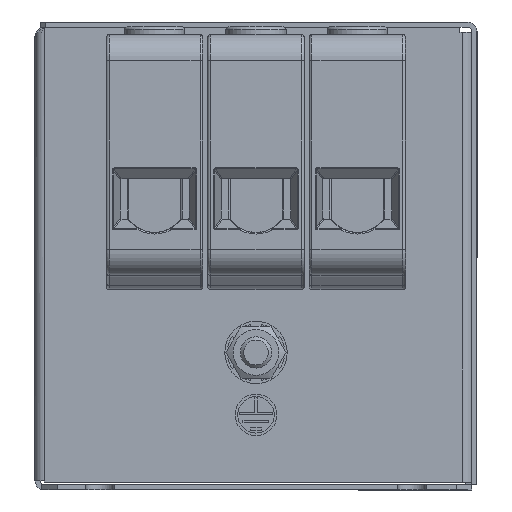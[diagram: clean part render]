
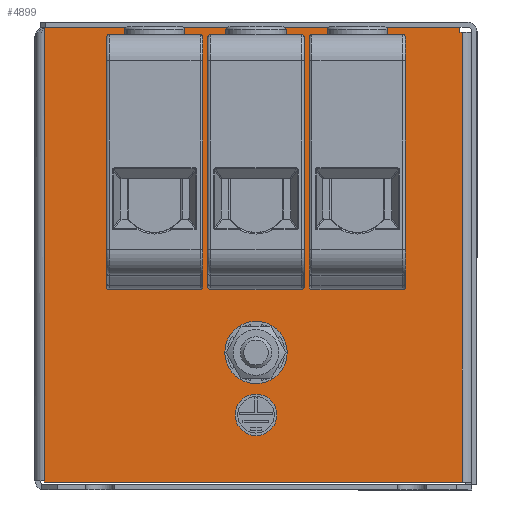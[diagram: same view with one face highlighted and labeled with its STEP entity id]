
A CAD part, left-side view. The second image highlights one B-rep face of the part: STEP entity #4899.
In plain terms, the highlighted planar face has unit normal (-1, 0, 0).
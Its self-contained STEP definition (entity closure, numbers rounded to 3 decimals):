
#4712=CARTESIAN_POINT('',(-110.0,42.5,1.5));
#4713=DIRECTION('',(1.0,0.0,0.0));
#4714=DIRECTION('',(0.0,0.0,-1.0));
#4715=AXIS2_PLACEMENT_3D('',#4712,#4713,#4714);
#4716=PLANE('',#4715);
#4717=CARTESIAN_POINT('',(-110.,-39.2,89.0));
#4718=VERTEX_POINT('',#4717);
#4719=CARTESIAN_POINT('',(-110.,-39.2,88.0));
#4720=VERTEX_POINT('',#4719);
#4721=CARTESIAN_POINT('',(-110.0,-39.2,89.0));
#4722=DIRECTION('',(0.0,0.0,-1.0));
#4723=VECTOR('',#4722,1.0);
#4724=LINE('',#4721,#4723);
#4725=EDGE_CURVE('',#4718,#4720,#4724,.T.);
#4726=ORIENTED_EDGE('',*,*,#4725,.F.);
#4727=CARTESIAN_POINT('',(-110.0,40.7,89.0));
#4728=VERTEX_POINT('',#4727);
#4729=CARTESIAN_POINT('',(-110.0,40.7,89.0));
#4730=DIRECTION('',(0.0,-1.0,0.0));
#4731=VECTOR('',#4730,79.9);
#4732=LINE('',#4729,#4731);
#4733=EDGE_CURVE('',#4728,#4718,#4732,.T.);
#4734=ORIENTED_EDGE('',*,*,#4733,.F.);
#4735=CARTESIAN_POINT('',(-110.0,40.7,1.8));
#4736=VERTEX_POINT('',#4735);
#4737=CARTESIAN_POINT('',(-110.,40.7,89.0));
#4738=DIRECTION('',(0.0,0.0,-1.0));
#4739=VECTOR('',#4738,87.2);
#4740=LINE('',#4737,#4739);
#4741=EDGE_CURVE('',#4728,#4736,#4740,.T.);
#4742=ORIENTED_EDGE('',*,*,#4741,.T.);
#4743=CARTESIAN_POINT('',(-110.,40.7,1.5));
#4744=VERTEX_POINT('',#4743);
#4745=CARTESIAN_POINT('',(-110.0,40.7,1.5));
#4746=DIRECTION('',(0.0,0.0,1.0));
#4747=VECTOR('',#4746,0.3);
#4748=LINE('',#4745,#4747);
#4749=EDGE_CURVE('',#4744,#4736,#4748,.T.);
#4750=ORIENTED_EDGE('',*,*,#4749,.F.);
#4751=CARTESIAN_POINT('',(-110.0,-39.7,1.5));
#4752=VERTEX_POINT('',#4751);
#4753=CARTESIAN_POINT('',(-110.0,-39.7,1.5));
#4754=DIRECTION('',(0.0,1.0,0.0));
#4755=VECTOR('',#4754,80.4);
#4756=LINE('',#4753,#4755);
#4757=EDGE_CURVE('',#4752,#4744,#4756,.T.);
#4758=ORIENTED_EDGE('',*,*,#4757,.F.);
#4759=CARTESIAN_POINT('',(-110.0,-39.7,88.0));
#4760=VERTEX_POINT('',#4759);
#4761=CARTESIAN_POINT('',(-110.0,-39.7,88.));
#4762=DIRECTION('',(0.0,0.0,-1.0));
#4763=VECTOR('',#4762,86.5);
#4764=LINE('',#4761,#4763);
#4765=EDGE_CURVE('',#4760,#4752,#4764,.T.);
#4766=ORIENTED_EDGE('',*,*,#4765,.F.);
#4767=CARTESIAN_POINT('',(-110.0,-39.2,88.0));
#4768=DIRECTION('',(0.0,-1.0,0.0));
#4769=VECTOR('',#4768,0.5);
#4770=LINE('',#4767,#4769);
#4771=EDGE_CURVE('',#4720,#4760,#4770,.T.);
#4772=ORIENTED_EDGE('',*,*,#4771,.F.);
#4773=EDGE_LOOP('',(#4726,#4734,#4742,#4750,#4758,#4766,#4772));
#4774=FACE_OUTER_BOUND('',#4773,.T.);
#4775=CARTESIAN_POINT('',(-110.0,-4.,14.45));
#4776=VERTEX_POINT('',#4775);
#4777=CARTESIAN_POINT('',(-110.0,0.0,14.45));
#4778=DIRECTION('',(-1.0,0.0,0.0));
#4779=DIRECTION('',(0.0,1.0,0.0));
#4780=AXIS2_PLACEMENT_3D('',#4777,#4778,#4779);
#4781=CIRCLE('',#4780,4.);
#4782=EDGE_CURVE('',#4776,#4776,#4781,.T.);
#4783=ORIENTED_EDGE('',*,*,#4782,.F.);
#4784=EDGE_LOOP('',(#4783));
#4785=FACE_BOUND('',#4784,.T.);
#4786=CARTESIAN_POINT('',(-110.,28.25,87.05));
#4787=VERTEX_POINT('',#4786);
#4788=CARTESIAN_POINT('',(-110.,28.25,39.05));
#4789=VERTEX_POINT('',#4788);
#4790=CARTESIAN_POINT('',(-110.,28.25,87.05));
#4791=DIRECTION('',(0.0,0.0,-1.0));
#4792=VECTOR('',#4791,48.);
#4793=LINE('',#4790,#4792);
#4794=EDGE_CURVE('',#4787,#4789,#4793,.T.);
#4795=ORIENTED_EDGE('',*,*,#4794,.F.);
#4796=CARTESIAN_POINT('',(-110.,10.75,87.05));
#4797=VERTEX_POINT('',#4796);
#4798=CARTESIAN_POINT('',(-110.,28.25,87.05));
#4799=DIRECTION('',(0.,-1.0,0.0));
#4800=VECTOR('',#4799,17.5);
#4801=LINE('',#4798,#4800);
#4802=EDGE_CURVE('',#4787,#4797,#4801,.T.);
#4803=ORIENTED_EDGE('',*,*,#4802,.T.);
#4804=CARTESIAN_POINT('',(-110.,10.75,39.05));
#4805=VERTEX_POINT('',#4804);
#4806=CARTESIAN_POINT('',(-110.,10.75,39.05));
#4807=DIRECTION('',(0.0,0.0,1.0));
#4808=VECTOR('',#4807,48.);
#4809=LINE('',#4806,#4808);
#4810=EDGE_CURVE('',#4805,#4797,#4809,.T.);
#4811=ORIENTED_EDGE('',*,*,#4810,.F.);
#4812=CARTESIAN_POINT('',(-110.,28.25,39.05));
#4813=DIRECTION('',(0.,-1.0,0.0));
#4814=VECTOR('',#4813,17.5);
#4815=LINE('',#4812,#4814);
#4816=EDGE_CURVE('',#4789,#4805,#4815,.T.);
#4817=ORIENTED_EDGE('',*,*,#4816,.F.);
#4818=EDGE_LOOP('',(#4795,#4803,#4811,#4817));
#4819=FACE_BOUND('',#4818,.T.);
#4820=CARTESIAN_POINT('',(-110.0,0.,20.925));
#4821=VERTEX_POINT('',#4820);
#4822=CARTESIAN_POINT('',(-110.0,0.,26.45));
#4823=DIRECTION('',(1.0,0.,0.0));
#4824=DIRECTION('',(0.,0.,-1.0));
#4825=AXIS2_PLACEMENT_3D('',#4822,#4823,#4824);
#4826=CIRCLE('',#4825,5.525);
#4827=EDGE_CURVE('',#4821,#4821,#4826,.T.);
#4828=ORIENTED_EDGE('',*,*,#4827,.T.);
#4829=EDGE_LOOP('',(#4828));
#4830=FACE_BOUND('',#4829,.T.);
#4831=CARTESIAN_POINT('',(-110.,8.75,87.05));
#4832=VERTEX_POINT('',#4831);
#4833=CARTESIAN_POINT('',(-110.,8.75,39.05));
#4834=VERTEX_POINT('',#4833);
#4835=CARTESIAN_POINT('',(-110.,8.75,87.05));
#4836=DIRECTION('',(0.0,0.0,-1.0));
#4837=VECTOR('',#4836,48.);
#4838=LINE('',#4835,#4837);
#4839=EDGE_CURVE('',#4832,#4834,#4838,.T.);
#4840=ORIENTED_EDGE('',*,*,#4839,.F.);
#4841=CARTESIAN_POINT('',(-110.,-8.75,87.05));
#4842=VERTEX_POINT('',#4841);
#4843=CARTESIAN_POINT('',(-110.,8.75,87.05));
#4844=DIRECTION('',(0.,-1.0,0.0));
#4845=VECTOR('',#4844,17.5);
#4846=LINE('',#4843,#4845);
#4847=EDGE_CURVE('',#4832,#4842,#4846,.T.);
#4848=ORIENTED_EDGE('',*,*,#4847,.T.);
#4849=CARTESIAN_POINT('',(-110.,-8.75,39.05));
#4850=VERTEX_POINT('',#4849);
#4851=CARTESIAN_POINT('',(-110.,-8.75,39.05));
#4852=DIRECTION('',(0.0,0.0,1.0));
#4853=VECTOR('',#4852,48.);
#4854=LINE('',#4851,#4853);
#4855=EDGE_CURVE('',#4850,#4842,#4854,.T.);
#4856=ORIENTED_EDGE('',*,*,#4855,.F.);
#4857=CARTESIAN_POINT('',(-110.,8.75,39.05));
#4858=DIRECTION('',(0.,-1.0,0.0));
#4859=VECTOR('',#4858,17.5);
#4860=LINE('',#4857,#4859);
#4861=EDGE_CURVE('',#4834,#4850,#4860,.T.);
#4862=ORIENTED_EDGE('',*,*,#4861,.F.);
#4863=EDGE_LOOP('',(#4840,#4848,#4856,#4862));
#4864=FACE_BOUND('',#4863,.T.);
#4865=CARTESIAN_POINT('',(-110.,-10.75,87.05));
#4866=VERTEX_POINT('',#4865);
#4867=CARTESIAN_POINT('',(-110.,-10.75,39.05));
#4868=VERTEX_POINT('',#4867);
#4869=CARTESIAN_POINT('',(-110.,-10.75,87.05));
#4870=DIRECTION('',(0.0,0.0,-1.0));
#4871=VECTOR('',#4870,48.);
#4872=LINE('',#4869,#4871);
#4873=EDGE_CURVE('',#4866,#4868,#4872,.T.);
#4874=ORIENTED_EDGE('',*,*,#4873,.F.);
#4875=CARTESIAN_POINT('',(-110.,-28.25,87.05));
#4876=VERTEX_POINT('',#4875);
#4877=CARTESIAN_POINT('',(-110.,-10.75,87.05));
#4878=DIRECTION('',(0.,-1.0,0.0));
#4879=VECTOR('',#4878,17.5);
#4880=LINE('',#4877,#4879);
#4881=EDGE_CURVE('',#4866,#4876,#4880,.T.);
#4882=ORIENTED_EDGE('',*,*,#4881,.T.);
#4883=CARTESIAN_POINT('',(-110.,-28.25,39.05));
#4884=VERTEX_POINT('',#4883);
#4885=CARTESIAN_POINT('',(-110.,-28.25,39.05));
#4886=DIRECTION('',(0.0,0.0,1.0));
#4887=VECTOR('',#4886,48.);
#4888=LINE('',#4885,#4887);
#4889=EDGE_CURVE('',#4884,#4876,#4888,.T.);
#4890=ORIENTED_EDGE('',*,*,#4889,.F.);
#4891=CARTESIAN_POINT('',(-110.,-10.75,39.05));
#4892=DIRECTION('',(0.,-1.0,0.0));
#4893=VECTOR('',#4892,17.5);
#4894=LINE('',#4891,#4893);
#4895=EDGE_CURVE('',#4868,#4884,#4894,.T.);
#4896=ORIENTED_EDGE('',*,*,#4895,.F.);
#4897=EDGE_LOOP('',(#4874,#4882,#4890,#4896));
#4898=FACE_BOUND('',#4897,.T.);
#4899=ADVANCED_FACE('',(#4774,#4785,#4819,#4830,#4864,#4898),#4716,.F.);
